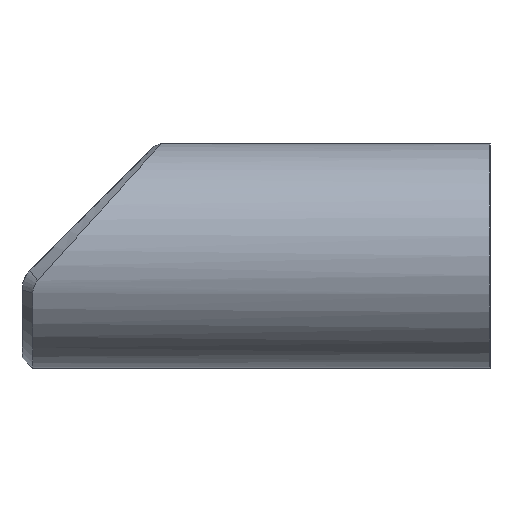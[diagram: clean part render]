
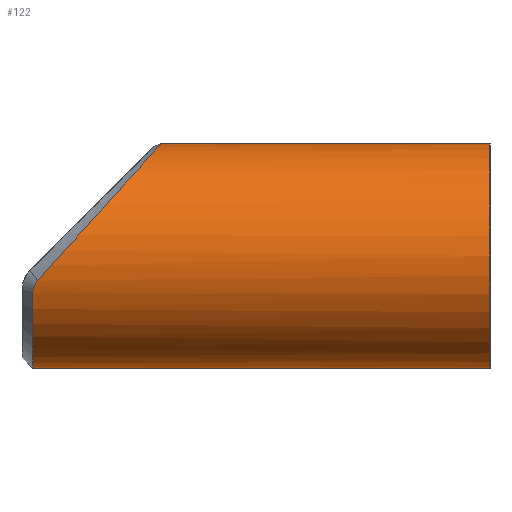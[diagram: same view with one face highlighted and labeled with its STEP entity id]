
A CAD part, left-side view. The second image highlights one B-rep face of the part: STEP entity #122.
In plain terms, the highlighted cylindrical face has radius 12.5 mm (diameter 25 mm), a partial arc.
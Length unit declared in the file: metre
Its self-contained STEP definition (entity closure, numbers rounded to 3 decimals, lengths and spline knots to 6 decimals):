
#122 = ADVANCED_FACE( '', ( #262 ), #263, .T. );
#262 = FACE_OUTER_BOUND( '', #432, .T. );
#263 = CYLINDRICAL_SURFACE( '', #433, 0.0125 );
#432 = EDGE_LOOP( '', ( #691, #692, #693, #694, #695, #696 ) );
#433 = AXIS2_PLACEMENT_3D( '', #697, #698, #699 );
#691 = ORIENTED_EDGE( '', *, *, #752, .T. );
#692 = ORIENTED_EDGE( '', *, *, #741, .T. );
#693 = ORIENTED_EDGE( '', *, *, #775, .F. );
#694 = ORIENTED_EDGE( '', *, *, #802, .F. );
#695 = ORIENTED_EDGE( '', *, *, #758, .F. );
#696 = ORIENTED_EDGE( '', *, *, #770, .T. );
#697 = CARTESIAN_POINT( '', ( -0.1524, 0.032673, -0.0125 ) );
#698 = DIRECTION( '', ( 0., -1., 0. ) );
#699 = DIRECTION( '', ( -1., 0., 0. ) );
#741 = EDGE_CURVE( '', #846, #851, #853, .T. );
#752 = EDGE_CURVE( '', #866, #846, #870, .T. );
#758 = EDGE_CURVE( '', #842, #880, #881, .F. );
#770 = EDGE_CURVE( '', #842, #866, #897, .T. );
#775 = EDGE_CURVE( '', #905, #851, #906, .T. );
#802 = EDGE_CURVE( '', #880, #905, #944, .F. );
#842 = VERTEX_POINT( '', #1015 );
#846 = VERTEX_POINT( '', #1021 );
#851 = VERTEX_POINT( '', #1029 );
#853 = CIRCLE( '', #1032, 0.0125 );
#866 = VERTEX_POINT( '', #1045 );
#870 = B_SPLINE_CURVE_WITH_KNOTS( '', 3, ( #1066, #1067, #1068, #1069, #1070, #1071, #1072, #1073, #1074, #1075, #1076, #1077, #1078, #1079 ), .UNSPECIFIED., .F., .F., ( 4, 1, 1, 1, 1, 1, 1, 1, 1, 1, 1, 4 ), ( 0., 0.090379, 0.179592, 0.268059, 0.356211, 0.444481, 0.533304, 0.623103, 0.714291, 0.80726, 0.902381, 1. ), .UNSPECIFIED. );
#880 = VERTEX_POINT( '', #1091 );
#881 = LINE( '', #1092, #1093 );
#897 = B_SPLINE_CURVE_WITH_KNOTS( '', 3, ( #1121, #1122, #1123, #1124, #1125, #1126, #1127, #1128, #1129, #1130, #1131, #1132, #1133, #1134, #1135, #1136, #1137, #1138, #1139, #1140, #1141, #1142, #1143, #1144, #1145, #1146, #1147, #1148, #1149, #1150, #1151, #1152, #1153 ), .UNSPECIFIED., .F., .F., ( 4, 1, 1, 1, 1, 1, 1, 1, 1, 1, 1, 1, 1, 1, 1, 1, 1, 1, 1, 1, 1, 1, 1, 1, 1, 1, 1, 1, 1, 1, 4 ), ( 0., 0.01137, 0.022771, 0.034206, 0.045684, 0.057208, 0.068785, 0.08042, 0.092118, 0.103885, 0.115726, 0.127646, 0.13965, 0.151743, 0.16393, 0.176216, 0.188605, 0.201101, 0.21371, 0.267951, 0.32572, 0.387253, 0.452742, 0.545598, 0.652377, 0.739135, 0.861996, 0.905421, 0.942896, 0.974423, 1. ), .UNSPECIFIED. );
#905 = VERTEX_POINT( '', #1161 );
#906 = LINE( '', #1162, #1163 );
#944 = CIRCLE( '', #1244, 0.0125 );
#1015 = CARTESIAN_POINT( '', ( -0.1524, 0.043173, 0. ) );
#1021 = CARTESIAN_POINT( '', ( -0.164194, 0.057466, -0.016643 ) );
#1029 = CARTESIAN_POINT( '', ( -0.1524, 0.057466, -0.025 ) );
#1032 = AXIS2_PLACEMENT_3D( '', #1289, #1290, #1291 );
#1045 = CARTESIAN_POINT( '', ( -0.164596, 0.05694, -0.015239 ) );
#1066 = CARTESIAN_POINT( '', ( -0.164596, 0.05694, -0.015239 ) );
#1067 = CARTESIAN_POINT( '', ( -0.164588, 0.056972, -0.015275 ) );
#1068 = CARTESIAN_POINT( '', ( -0.164572, 0.057033, -0.015346 ) );
#1069 = CARTESIAN_POINT( '', ( -0.164545, 0.057116, -0.015458 ) );
#1070 = CARTESIAN_POINT( '', ( -0.164516, 0.05719, -0.015574 ) );
#1071 = CARTESIAN_POINT( '', ( -0.164485, 0.057256, -0.015694 ) );
#1072 = CARTESIAN_POINT( '', ( -0.164452, 0.057312, -0.015818 ) );
#1073 = CARTESIAN_POINT( '', ( -0.164416, 0.05736, -0.015947 ) );
#1074 = CARTESIAN_POINT( '', ( -0.164377, 0.057399, -0.016079 ) );
#1075 = CARTESIAN_POINT( '', ( -0.164336, 0.057429, -0.016215 ) );
#1076 = CARTESIAN_POINT( '', ( -0.164291, 0.057451, -0.016354 ) );
#1077 = CARTESIAN_POINT( '', ( -0.164244, 0.057464, -0.016497 ) );
#1078 = CARTESIAN_POINT( '', ( -0.164211, 0.057465, -0.016594 ) );
#1079 = CARTESIAN_POINT( '', ( -0.164194, 0.057466, -0.016643 ) );
#1091 = CARTESIAN_POINT( '', ( -0.1524, 0.006673, 0. ) );
#1092 = CARTESIAN_POINT( '', ( -0.1524, 0.006673, 0. ) );
#1093 = VECTOR( '', #1312, 1. );
#1121 = CARTESIAN_POINT( '', ( -0.1524, 0.043173, 0. ) );
#1122 = CARTESIAN_POINT( '', ( -0.152502, 0.043173, 0. ) );
#1123 = CARTESIAN_POINT( '', ( -0.152706, 0.043174, -0.000002 ) );
#1124 = CARTESIAN_POINT( '', ( -0.153012, 0.043185, -0.000014 ) );
#1125 = CARTESIAN_POINT( '', ( -0.153318, 0.043202, -0.000032 ) );
#1126 = CARTESIAN_POINT( '', ( -0.153625, 0.043226, -0.000059 ) );
#1127 = CARTESIAN_POINT( '', ( -0.153931, 0.043257, -0.000093 ) );
#1128 = CARTESIAN_POINT( '', ( -0.154237, 0.043295, -0.000134 ) );
#1129 = CARTESIAN_POINT( '', ( -0.154543, 0.043339, -0.000184 ) );
#1130 = CARTESIAN_POINT( '', ( -0.154848, 0.043391, -0.000241 ) );
#1131 = CARTESIAN_POINT( '', ( -0.155152, 0.043449, -0.000305 ) );
#1132 = CARTESIAN_POINT( '', ( -0.155455, 0.043515, -0.000378 ) );
#1133 = CARTESIAN_POINT( '', ( -0.155756, 0.043587, -0.000458 ) );
#1134 = CARTESIAN_POINT( '', ( -0.156056, 0.043666, -0.000545 ) );
#1135 = CARTESIAN_POINT( '', ( -0.156355, 0.043752, -0.000641 ) );
#1136 = CARTESIAN_POINT( '', ( -0.156652, 0.043845, -0.000744 ) );
#1137 = CARTESIAN_POINT( '', ( -0.156946, 0.043945, -0.000855 ) );
#1138 = CARTESIAN_POINT( '', ( -0.157239, 0.044052, -0.000973 ) );
#1139 = CARTESIAN_POINT( '', ( -0.157528, 0.044166, -0.001099 ) );
#1140 = CARTESIAN_POINT( '', ( -0.158131, 0.044419, -0.001379 ) );
#1141 = CARTESIAN_POINT( '', ( -0.159029, 0.044867, -0.001874 ) );
#1142 = CARTESIAN_POINT( '', ( -0.160161, 0.045585, -0.002668 ) );
#1143 = CARTESIAN_POINT( '', ( -0.161228, 0.046436, -0.003611 ) );
#1144 = CARTESIAN_POINT( '', ( -0.162322, 0.047535, -0.00483 ) );
#1145 = CARTESIAN_POINT( '', ( -0.163384, 0.048967, -0.00641 ) );
#1146 = CARTESIAN_POINT( '', ( -0.164201, 0.050601, -0.008224 ) );
#1147 = CARTESIAN_POINT( '', ( -0.164763, 0.052471, -0.010284 ) );
#1148 = CARTESIAN_POINT( '', ( -0.164928, 0.053989, -0.011972 ) );
#1149 = CARTESIAN_POINT( '', ( -0.164882, 0.055212, -0.013327 ) );
#1150 = CARTESIAN_POINT( '', ( -0.164807, 0.055885, -0.014072 ) );
#1151 = CARTESIAN_POINT( '', ( -0.164711, 0.05645, -0.014697 ) );
#1152 = CARTESIAN_POINT( '', ( -0.164632, 0.056789, -0.015072 ) );
#1153 = CARTESIAN_POINT( '', ( -0.164596, 0.05694, -0.015239 ) );
#1161 = CARTESIAN_POINT( '', ( -0.1524, 0.006673, -0.025 ) );
#1162 = CARTESIAN_POINT( '', ( -0.1524, 0.032673, -0.025 ) );
#1163 = VECTOR( '', #1332, 1. );
#1244 = AXIS2_PLACEMENT_3D( '', #1374, #1375, #1376 );
#1289 = CARTESIAN_POINT( '', ( -0.1524, 0.057466, -0.0125 ) );
#1290 = DIRECTION( '', ( 0., -1., 0. ) );
#1291 = DIRECTION( '', ( 1., 0., 0. ) );
#1312 = DIRECTION( '', ( 0., 1., 0. ) );
#1332 = DIRECTION( '', ( 0., 1., 0. ) );
#1374 = CARTESIAN_POINT( '', ( -0.1524, 0.006673, -0.0125 ) );
#1375 = DIRECTION( '', ( 0., 1., 0. ) );
#1376 = DIRECTION( '', ( -1., 0., 0. ) );
